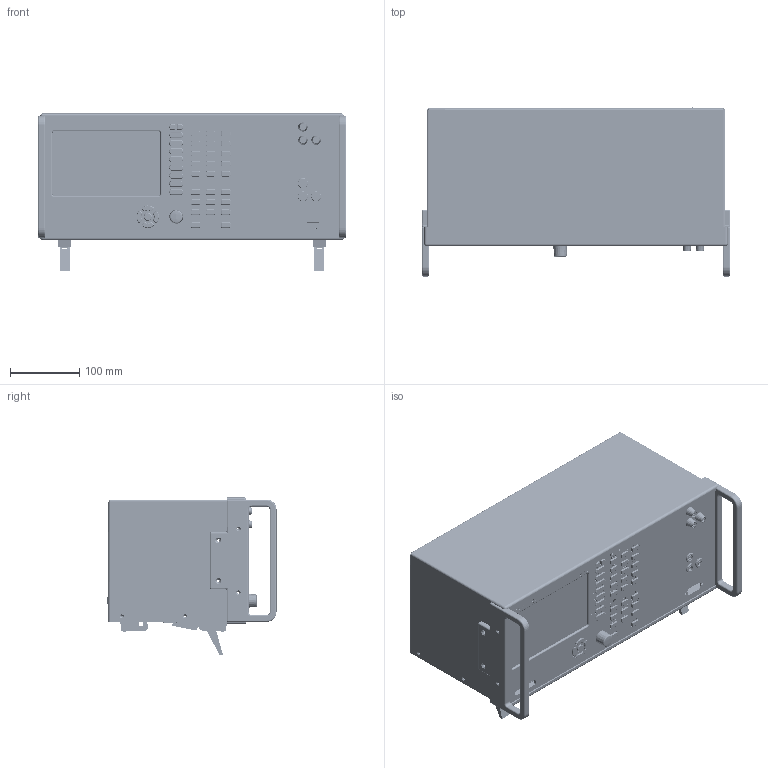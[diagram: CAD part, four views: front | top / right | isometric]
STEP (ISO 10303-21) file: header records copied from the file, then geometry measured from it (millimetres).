
FILE_DESCRIPTION(/* description */ (''),/* implementation_level */ '2;1');
FILE_NAME(/* name */ 'C:\Users\rschatalow\Desktop\MLMG611-a.stp',/* time_stamp */ '2021-11-10T13:18:25+01:00',/* author */ ('rschatalow'),/* organization */ (''),/* preprocessor_version */ 'ST-DEVELOPER v18',/* originating_system */ 'Autodesk Inventor 2020',/* authorisation */ '');
FILE_SCHEMA (('AUTOMOTIVE_DESIGN { 1 0 10303 214 3 1 1 }'));
Products named in the file (34): MLMG611-a; L611Boden-c; L611Boden-c_1; L611Deckel-a; L611Deckel-a_1; F-M4-1; FUSS03; FUSS02; L671FPR-ALA-a; L671FPR-ALA-a_1; NETKOMB-2166; L61RWPC-b; ML611FP-BG-a; Display-AM-1024600K5TMQW; DKNOPF20-LMG641; DKNOPF20-0007399 - Deckel für ø20_Default; DKNOPF20-00010497 - Scheibe; DNOPF20-00010500 - Spannpatrone, Achs- ø6 mm; DNOPF20-00010498 - Mutter; DKNOPF20-00006763 - Eindreuckbuchse; DKNOPF20-00007391 - Knopfkoerper geschloßen ø20_Default; EC11B15244; EC11B15244_ec11bPina; EC11B15244_ec11bPinb; EC11B15244_1; Silikonmatte_unbeleuchtet_L_LMG641-611-28.08.17; Silikonmatte_beleuchtet_LMG601-28.08.17; L611FP-e; BUCHSE03; BUCHSE09; L611CHFR-a; L611RW-a; L611RW-a_1; L671FPBG-b
Assembly tree (46 placements, depth 4):
  MLMG611-a
    L611Boden-c
      L611Boden-c_1
    L611Deckel-a
      L611Deckel-a_1
      F-M4-1  x4
    FUSS03  x2
    FUSS02  x2
    L671FPR-ALA-a
      L671FPR-ALA-a_1
    NETKOMB-2166
    L61RWPC-b
    ML611FP-BG-a
      Display-AM-1024600K5TMQW
      DKNOPF20-LMG641
        DKNOPF20-0007399 - Deckel für ø20_Default
        DKNOPF20-00010497 - Scheibe
        DNOPF20-00010500 - Spannpatrone, Achs- ø6 mm
        DNOPF20-00010498 - Mutter
        DKNOPF20-00006763 - Eindreuckbuchse
        DKNOPF20-00007391 - Knopfkoerper geschloßen ø20_Default
      EC11B15244
        EC11B15244_ec11bPina  x3
        EC11B15244_ec11bPinb  x2
        EC11B15244_1
      Silikonmatte_unbeleuchtet_L_LMG641-611-28.08.17
      Silikonmatte_beleuchtet_LMG601-28.08.17
      L611FP-e
      BUCHSE03  x3
      BUCHSE09  x3
    L611CHFR-a
    L611RW-a
      L611RW-a_1
    L671FPBG-b  x2
Bounding box: 444.8 x 243.85 x 226.92 mm (x, y, z)
Volume: 1113308.3 mm3; surface area: 1079133.4 mm2
Topology: 48 solids, 48 shells, 10929 faces, 28886 edges, 18567 vertices
Faces by surface type: plane 6330, cylinder 2582, bspline 1161, cone 508, torus 315, sphere 33
Full cylindrical faces by diameter (mm): 1.4 x5, 2 x12, 2.5 x4, 2.6 x1, 2.7 x9, 3 x119, 3.1 x4, 3.2 x15, 3.242 x4, 3.4 x20, 3.5 x1, 4 x10, 4.1 x1, 4.2 x2, 4.25 x25, 4.4 x55, 4.5 x4, 4.8 x4, 5 x21, 5.057 x1, 5.4 x1, 5.5 x1, 6 x7, 6.2 x10, 6.5 x14, 6.87 x4, 7 x1, 7.35 x4, 7.4 x8, 7.6 x1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
Entity records: 349156 total; most frequent: CARTESIAN_POINT 85491, ORIENTED_EDGE 56016, DIRECTION 50364, EDGE_CURVE 28008, LINE 19310, VECTOR 19310, VERTEX_POINT 18012, AXIS2_PLACEMENT_3D 15527
